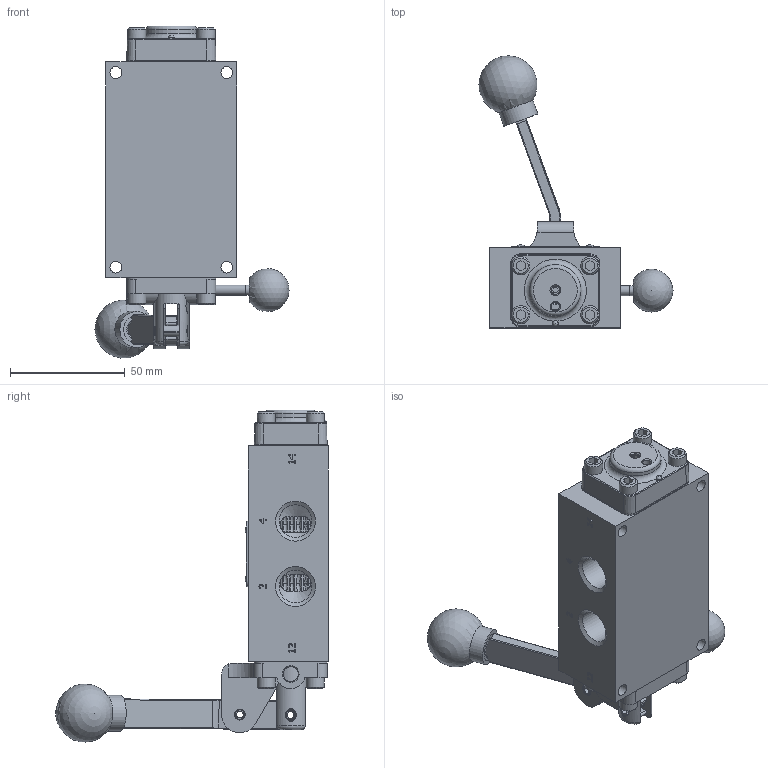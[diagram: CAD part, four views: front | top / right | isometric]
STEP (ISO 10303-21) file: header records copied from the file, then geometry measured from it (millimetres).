
FILE_DESCRIPTION(/* description */ (''),/* implementation_level */ '2;1');
FILE_NAME(/* name */ 'HY3BREH.stp',/* time_stamp */ '2025-01-26T15:55:59-05:00',/* author */ ('rmckenna'),/* organization */ (''),/* preprocessor_version */ 'ST-DEVELOPER v20',/* originating_system */ 'Autodesk Inventor 2024',/* authorisation */ '');
FILE_SCHEMA (('AUTOMOTIVE_DESIGN { 1 0 10303 214 3 1 1 }'));
Length unit declared in the file: centimetre
Products named in the file (1): Part106
Bounding box: 84.71 x 118.87 x 144.9 mm (x, y, z)
Volume: 203538.8 mm3; surface area: 65715.3 mm2
Topology: 2 solids, 30 shells, 1275 faces, 3145 edges, 2008 vertices
Faces by surface type: plane 554, cone 269, cylinder 240, bspline 108, torus 99, sphere 5
Full cylindrical faces by diameter (mm): 2.07 x2, 2.261 x2, 2.778 x2, 3.175 x2, 3.618 x1, 3.683 x12, 3.912 x3, 3.962 x1, 4.445 x2, 4.75 x2, 4.763 x2, 4.826 x8, 4.851 x1, 4.978 x4, 5.055 x1, 5.156 x12, 5.918 x1, 6.528 x5, 7.798 x1, 7.938 x8, 9.525 x1, 9.728 x1, 9.855 x1, 11.113 x1, 11.303 x3, 12.141 x2, 14.275 x1, 14.287 x5, 14.986 x1, 15.748 x1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
Entity records: 43623 total; most frequent: CARTESIAN_POINT 12675, ORIENTED_EDGE 6240, DIRECTION 5863, EDGE_CURVE 3120, AXIS2_PLACEMENT_3D 2138, VERTEX_POINT 2008, LINE 1587, VECTOR 1587
